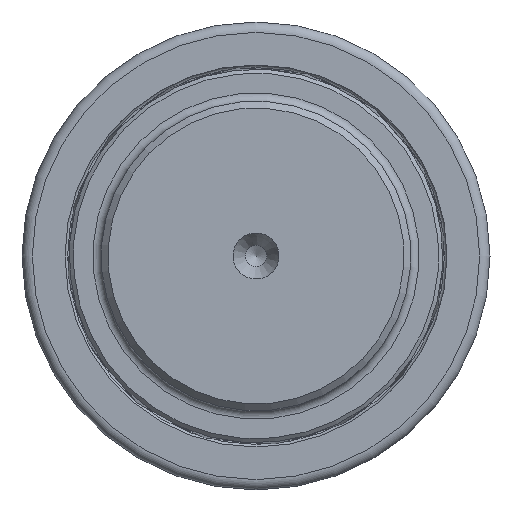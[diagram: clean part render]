
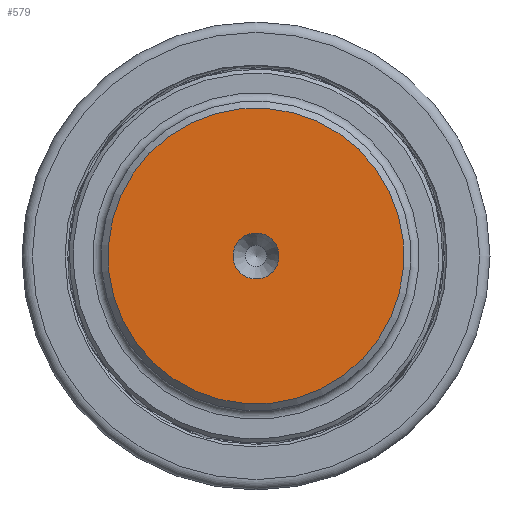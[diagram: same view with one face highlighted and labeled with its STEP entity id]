
A CAD part, left-side view. The second image highlights one B-rep face of the part: STEP entity #579.
In plain terms, the highlighted planar face has unit normal (-1, 0, 0).
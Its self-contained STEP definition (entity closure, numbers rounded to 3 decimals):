
#96=FACE_BOUND('',#213,.T.);
#143=FACE_OUTER_BOUND('',#212,.T.);
#212=EDGE_LOOP('',(#474));
#213=EDGE_LOOP('',(#475));
#293=CIRCLE('',#654,3.35);
#294=CIRCLE('',#656,21.5);
#347=VERTEX_POINT('',#1005);
#348=VERTEX_POINT('',#1008);
#401=EDGE_CURVE('',#347,#347,#293,.T.);
#402=EDGE_CURVE('',#348,#348,#294,.T.);
#474=ORIENTED_EDGE('',*,*,#402,.T.);
#475=ORIENTED_EDGE('',*,*,#401,.T.);
#553=PLANE('',#655);
#579=ADVANCED_FACE('',(#143,#96),#553,.T.);
#654=AXIS2_PLACEMENT_3D('',#1006,#803,#804);
#655=AXIS2_PLACEMENT_3D('',#1007,#805,#806);
#656=AXIS2_PLACEMENT_3D('',#1009,#807,#808);
#803=DIRECTION('center_axis',(1.,0.,0.));
#804=DIRECTION('ref_axis',(0.,-1.,0.));
#805=DIRECTION('center_axis',(-1.,0.,0.));
#806=DIRECTION('ref_axis',(0.,0.,1.));
#807=DIRECTION('center_axis',(-1.,0.,0.));
#808=DIRECTION('ref_axis',(0.,0.,1.));
#1005=CARTESIAN_POINT('',(-8.434,28.907,0.));
#1006=CARTESIAN_POINT('Origin',(-8.434,32.257,0.));
#1007=CARTESIAN_POINT('Origin',(-8.434,32.257,0.));
#1008=CARTESIAN_POINT('',(-8.434,10.757,0.));
#1009=CARTESIAN_POINT('Origin',(-8.434,32.257,0.));
